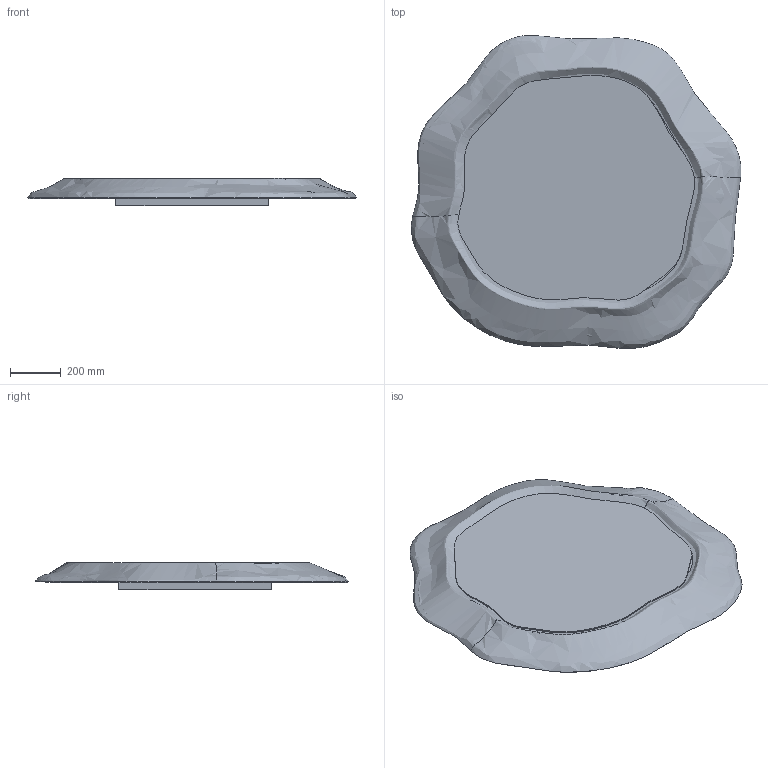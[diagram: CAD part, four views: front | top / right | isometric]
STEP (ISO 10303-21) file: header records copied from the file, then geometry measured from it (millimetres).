
FILE_DESCRIPTION(/* description */ (''),/* implementation_level */ '2;1');
FILE_NAME(/* name */ 'STI130',/* time_stamp */ '2026-07-03T15:47:25+02:00',/* author */ (''),/* organization */ (''),/* preprocessor_version */ 'ST-DEVELOPER v16.5',/* originating_system */ '',/* authorisation */ '');
FILE_SCHEMA (('AUTOMOTIVE_DESIGN'));
Length unit declared in the file: millimetre
Products named in the file (1): Document
Bounding box: 1294.36 x 1230.17 x 106.22 mm (x, y, z)
Volume: 20397299.2 mm3; surface area: 4804187.7 mm2
Topology: 4 solids, 4 shells, 28 faces, 58 edges, 34 vertices
Faces by surface type: plane 19, bspline 9
Entity records: 34348 total; most frequent: CARTESIAN_POINT 33877, ORIENTED_EDGE 108, EDGE_CURVE 54, B_SPLINE_CURVE_WITH_KNOTS 54, VERTEX_POINT 34, EDGE_LOOP 30, ADVANCED_FACE 28, FACE_OUTER_BOUND 28
